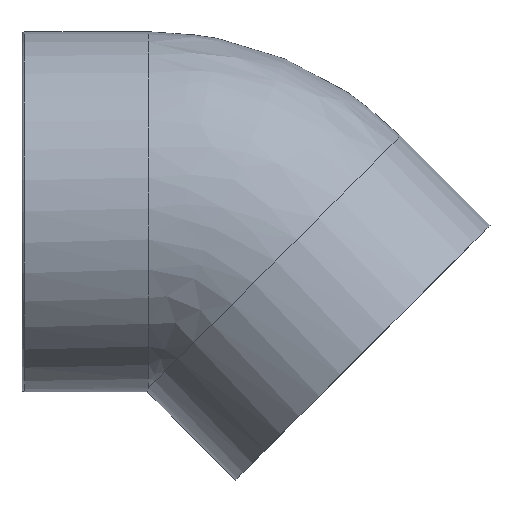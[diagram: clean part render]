
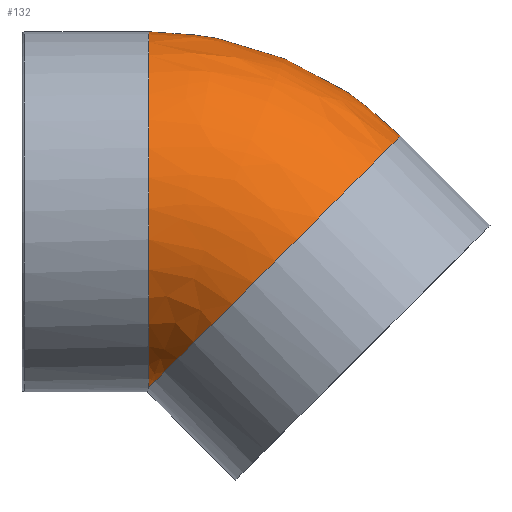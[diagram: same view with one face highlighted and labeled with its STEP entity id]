
A CAD part, top view. The second image highlights one B-rep face of the part: STEP entity #132.
In plain terms, the highlighted free-form (B-spline) face has degree [2, 2] with [9, 3] control points.
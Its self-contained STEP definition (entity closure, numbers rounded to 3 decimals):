
#16=(
BOUNDED_SURFACE()
B_SPLINE_SURFACE(2,2,((#226,#227,#228),(#229,#230,#231),(#232,#233,#234),
(#235,#236,#237),(#238,#239,#240),(#241,#242,#243),(#244,#245,#246),(#247,
#248,#249),(#250,#251,#252)),.UNSPECIFIED.,.F.,.F.,.F.)
B_SPLINE_SURFACE_WITH_KNOTS((3,2,2,2,3),(3,3),(-2.935,-1.467,
0.,1.467,2.935),(1.571,2.356),
 .UNSPECIFIED.)
GEOMETRIC_REPRESENTATION_ITEM()
RATIONAL_B_SPLINE_SURFACE(((1.,0.924,1.),(0.743,
0.686,0.743),(1.,0.924,1.),(0.743,
0.686,0.743),(1.,0.924,1.),(0.743,
0.686,0.743),(1.,0.924,1.),(0.743,
0.686,0.743),(1.,0.924,1.)))
REPRESENTATION_ITEM('')
SURFACE()
);
#40=FACE_OUTER_BOUND('',#56,.T.);
#56=EDGE_LOOP('',(#111,#112));
#73=CIRCLE('',#151,37.);
#74=CIRCLE('',#152,37.);
#84=VERTEX_POINT('',#253);
#85=VERTEX_POINT('',#254);
#95=EDGE_CURVE('',#84,#85,#73,.T.);
#96=EDGE_CURVE('',#85,#84,#74,.T.);
#111=ORIENTED_EDGE('',*,*,#95,.T.);
#112=ORIENTED_EDGE('',*,*,#96,.T.);
#132=ADVANCED_FACE('',(#40),#16,.F.);
#151=AXIS2_PLACEMENT_3D('',#255,#186,#187);
#152=AXIS2_PLACEMENT_3D('',#256,#188,#189);
#186=DIRECTION('center_axis',(1.,0.,0.));
#187=DIRECTION('ref_axis',(0.,0.,-1.));
#188=DIRECTION('center_axis',(-0.707,0.707,0.));
#189=DIRECTION('ref_axis',(0.,0.,-1.));
#226=CARTESIAN_POINT('Ctrl Pts',(-15.,-36.213,7.59));
#227=CARTESIAN_POINT('Ctrl Pts',(-15.,-36.213,7.59));
#228=CARTESIAN_POINT('Ctrl Pts',(-15.,-36.213,7.59));
#229=CARTESIAN_POINT('Ctrl Pts',(-15.,-29.37,40.243));
#230=CARTESIAN_POINT('Ctrl Pts',(-12.165,-29.37,40.243));
#231=CARTESIAN_POINT('Ctrl Pts',(-10.161,-31.374,40.243));
#232=CARTESIAN_POINT('Ctrl Pts',(-15.,3.815,36.803));
#233=CARTESIAN_POINT('Ctrl Pts',(1.58,3.815,36.803));
#234=CARTESIAN_POINT('Ctrl Pts',(13.304,-7.909,36.803));
#235=CARTESIAN_POINT('Ctrl Pts',(-15.,37.,33.363));
#236=CARTESIAN_POINT('Ctrl Pts',(15.326,37.,33.363));
#237=CARTESIAN_POINT('Ctrl Pts',(36.77,15.556,33.363));
#238=CARTESIAN_POINT('Ctrl Pts',(-15.,37.,0.));
#239=CARTESIAN_POINT('Ctrl Pts',(15.326,37.,0.));
#240=CARTESIAN_POINT('Ctrl Pts',(36.77,15.556,0.));
#241=CARTESIAN_POINT('Ctrl Pts',(-15.,37.,-33.363));
#242=CARTESIAN_POINT('Ctrl Pts',(15.326,37.,-33.363));
#243=CARTESIAN_POINT('Ctrl Pts',(36.77,15.556,-33.363));
#244=CARTESIAN_POINT('Ctrl Pts',(-15.,3.815,-36.803));
#245=CARTESIAN_POINT('Ctrl Pts',(1.58,3.815,-36.803));
#246=CARTESIAN_POINT('Ctrl Pts',(13.304,-7.909,-36.803));
#247=CARTESIAN_POINT('Ctrl Pts',(-15.,-29.37,-40.243));
#248=CARTESIAN_POINT('Ctrl Pts',(-12.165,-29.37,-40.243));
#249=CARTESIAN_POINT('Ctrl Pts',(-10.161,-31.374,-40.243));
#250=CARTESIAN_POINT('Ctrl Pts',(-15.,-36.213,-7.59));
#251=CARTESIAN_POINT('Ctrl Pts',(-15.,-36.213,-7.59));
#252=CARTESIAN_POINT('Ctrl Pts',(-15.,-36.213,-7.59));
#253=CARTESIAN_POINT('',(-15.,-36.213,-7.59));
#254=CARTESIAN_POINT('',(-15.,-36.213,7.59));
#255=CARTESIAN_POINT('Origin',(-15.,0.,0.));
#256=CARTESIAN_POINT('Origin',(10.607,-10.607,0.));
